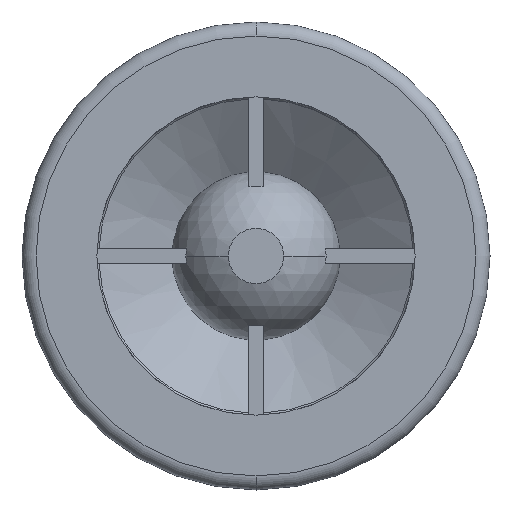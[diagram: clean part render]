
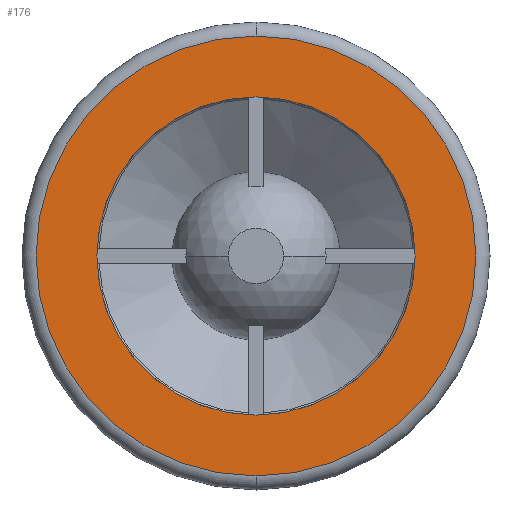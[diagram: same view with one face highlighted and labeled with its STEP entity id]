
A CAD part, front view. The second image highlights one B-rep face of the part: STEP entity #176.
In plain terms, the highlighted planar face has unit normal (0, -1, 0).
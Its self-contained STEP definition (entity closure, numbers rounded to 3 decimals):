
#152 = ORIENTED_EDGE ( 'NONE', *, *, #470, .F. ) ;
#153 = ORIENTED_EDGE ( 'NONE', *, *, #511, .F. ) ;
#154 = EDGE_LOOP ( 'NONE', ( #152, #153 ) ) ;
#157 = ORIENTED_EDGE ( 'NONE', *, *, #307, .T. ) ;
#174 = ORIENTED_EDGE ( 'NONE', *, *, #207, .T. ) ;
#175 = EDGE_LOOP ( 'NONE', ( #174, #157 ) ) ;
#176 = ADVANCED_FACE ( 'NONE', ( #1531, #1530 ), #1529, .F. ) ;
#207 = EDGE_CURVE ( 'NONE', #288, #287, #1590, .T. ) ;
#287 = VERTEX_POINT ( 'NONE', #1739 ) ;
#288 = VERTEX_POINT ( 'NONE', #1738 ) ;
#307 = EDGE_CURVE ( 'NONE', #287, #288, #1769, .T. ) ;
#470 = EDGE_CURVE ( 'NONE', #512, #509, #2119, .T. ) ;
#509 = VERTEX_POINT ( 'NONE', #2155 ) ;
#511 = EDGE_CURVE ( 'NONE', #509, #512, #2213, .T. ) ;
#512 = VERTEX_POINT ( 'NONE', #2209 ) ;
#1525 = DIRECTION ( 'NONE',  ( 0., 0., 1. ) ) ;
#1526 = DIRECTION ( 'NONE',  ( 0., 1., 0. ) ) ;
#1527 = CARTESIAN_POINT ( 'NONE',  ( -17., 0., 0. ) ) ;
#1528 = AXIS2_PLACEMENT_3D ( 'NONE', #1527, #1526, #1525 ) ;
#1529 = PLANE ( 'NONE',  #1528 ) ;
#1530 = FACE_BOUND ( 'NONE', #154, .T. ) ;
#1531 = FACE_OUTER_BOUND ( 'NONE', #175, .T. ) ;
#1586 = DIRECTION ( 'NONE',  ( 0., 0., 1. ) ) ;
#1587 = DIRECTION ( 'NONE',  ( 0., -1., 0. ) ) ;
#1588 = CARTESIAN_POINT ( 'NONE',  ( 0., 0., 0. ) ) ;
#1589 = AXIS2_PLACEMENT_3D ( 'NONE', #1588, #1587, #1586 ) ;
#1590 = CIRCLE ( 'NONE', #1589, 23.5 ) ;
#1738 = CARTESIAN_POINT ( 'NONE',  ( 0., 0., 23.5 ) ) ;
#1739 = CARTESIAN_POINT ( 'NONE',  ( 0., 0., -23.5 ) ) ;
#1762 = DIRECTION ( 'NONE',  ( 0., 0., 1. ) ) ;
#1763 = DIRECTION ( 'NONE',  ( 0., -1., 0. ) ) ;
#1764 = CARTESIAN_POINT ( 'NONE',  ( 0., 0., 0. ) ) ;
#1765 = AXIS2_PLACEMENT_3D ( 'NONE', #1764, #1763, #1762 ) ;
#1769 = CIRCLE ( 'NONE', #1765, 23.5 ) ;
#2115 = DIRECTION ( 'NONE',  ( 0., 0., -1. ) ) ;
#2116 = DIRECTION ( 'NONE',  ( 0., -1., 0. ) ) ;
#2117 = CARTESIAN_POINT ( 'NONE',  ( 0., 0., 0. ) ) ;
#2118 = AXIS2_PLACEMENT_3D ( 'NONE', #2117, #2116, #2115 ) ;
#2119 = CIRCLE ( 'NONE', #2118, 17. ) ;
#2154 = CARTESIAN_POINT ( 'NONE',  ( 0., 0., 0. ) ) ;
#2155 = CARTESIAN_POINT ( 'NONE',  ( 0., 0., 17. ) ) ;
#2209 = CARTESIAN_POINT ( 'NONE',  ( 0., 0., -17. ) ) ;
#2210 = DIRECTION ( 'NONE',  ( 0., 0., -1. ) ) ;
#2211 = DIRECTION ( 'NONE',  ( 0., -1., 0. ) ) ;
#2212 = AXIS2_PLACEMENT_3D ( 'NONE', #2154, #2211, #2210 ) ;
#2213 = CIRCLE ( 'NONE', #2212, 17. ) ;
